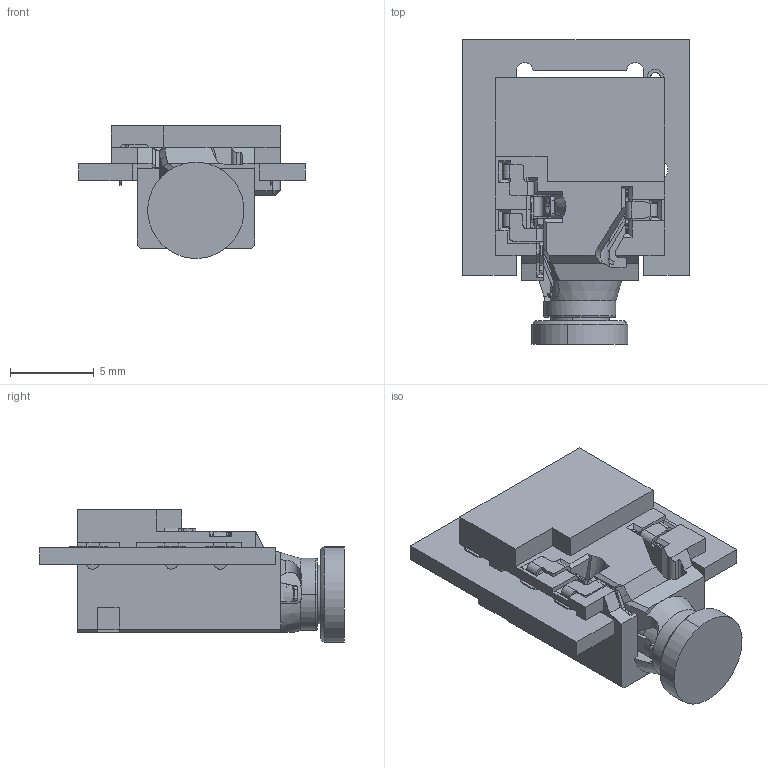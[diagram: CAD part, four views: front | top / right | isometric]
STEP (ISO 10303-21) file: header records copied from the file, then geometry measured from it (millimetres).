
FILE_DESCRIPTION (( 'STEP AP214' ), '1' );
FILE_NAME ('J3E-2.STEP', '2022-02-21T10:00:59', ( '' ), ( '' ), 'SwSTEP 2.0', 'SolidWorks 2016', '' );
FILE_SCHEMA (( 'AUTOMOTIVE_DESIGN' ));
Length unit declared in the file: millimetre
Products named in the file (4): J3E-2; 3_5MM_PLUG; 傖こ; PCB
Assembly tree (3 placements, depth 2):
  J3E-2
    傖こ
    PCB
    3_5MM_PLUG
Bounding box: 13.53 x 18.16 x 7.91 mm (x, y, z)
Volume: 686.1 mm3; surface area: 1682.8 mm2
Topology: 3 solids, 3 shells, 881 faces, 2455 edges, 1572 vertices
Faces by surface type: plane 577, cylinder 230, bspline 41, cone 23, torus 6, sphere 4
Entity records: 29287 total; most frequent: CARTESIAN_POINT 6483, ORIENTED_EDGE 4908, DIRECTION 4337, EDGE_CURVE 2454, VECTOR 1777, LINE 1777, VERTEX_POINT 1572, AXIS2_PLACEMENT_3D 1280
